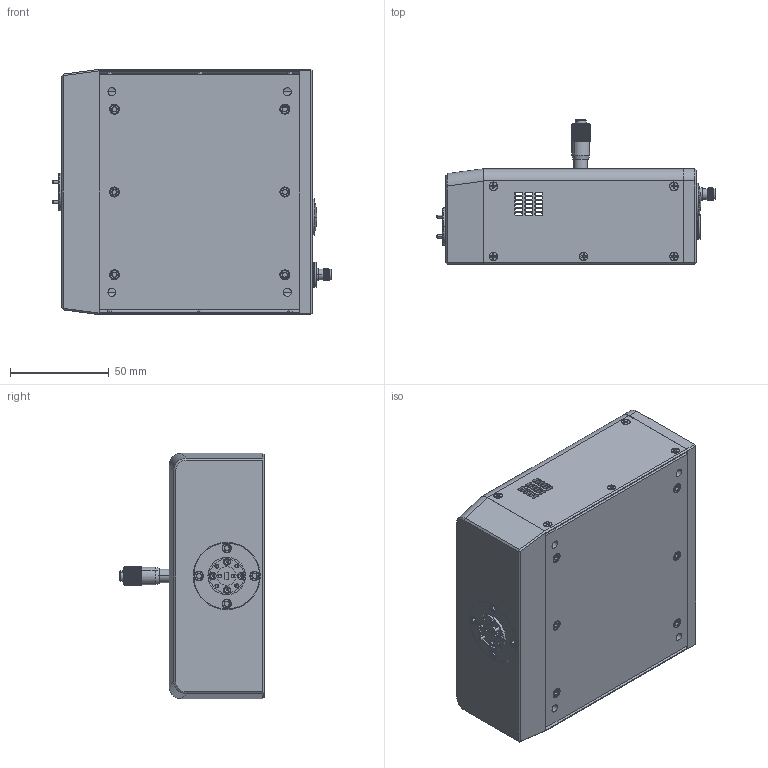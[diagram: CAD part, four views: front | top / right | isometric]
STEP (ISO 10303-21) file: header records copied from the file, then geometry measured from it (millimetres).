
FILE_DESCRIPTION (( 'STEP AP214' ), '1' );
FILE_NAME ('TE-V-A-2, Mountable.STEP', '2025-01-10T21:53:26', ( '' ), ( '' ), 'SwSTEP 2.0', 'SolidWorks 2021', '' );
FILE_SCHEMA (( 'AUTOMOTIVE_DESIGN' ));
Length unit declared in the file: inch
Products named in the file (1): TE-V-A-2, Mountable
Bounding box: 141.1 x 73.27 x 124.32 mm (x, y, z)
Volume: 254020.3 mm3; surface area: 137271.7 mm2
Topology: 44 solids, 44 shells, 5773 faces, 13185 edges, 7508 vertices
Faces by surface type: bspline 2670, cylinder 1582, plane 987, cone 490, torus 36, sphere 8
Entity records: 633623 total; most frequent: CARTESIAN_POINT 535295, ORIENTED_EDGE 26084, DIRECTION 13742, EDGE_CURVE 13042, VERTEX_POINT 7505, EDGE_LOOP 6123, ADVANCED_FACE 5773, FACE_OUTER_BOUND 5773
